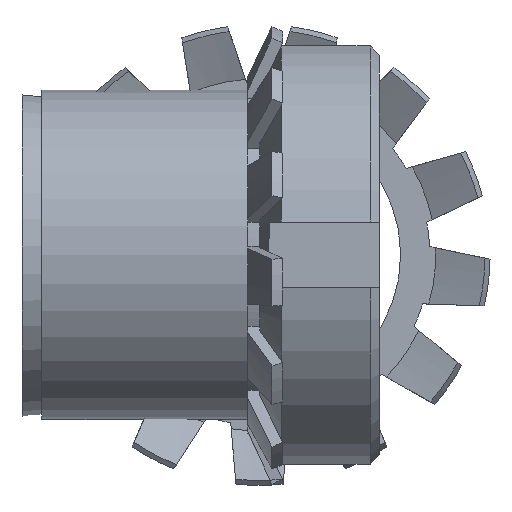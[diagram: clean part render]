
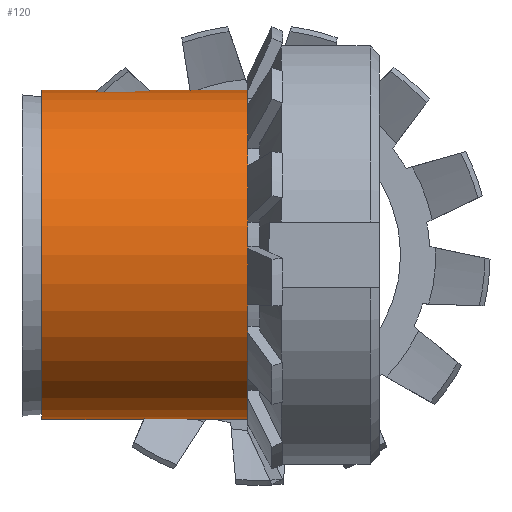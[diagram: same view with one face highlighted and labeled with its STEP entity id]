
A CAD part, left-side view. The second image highlights one B-rep face of the part: STEP entity #120.
In plain terms, the highlighted cylindrical face has radius 17.5 mm (diameter 35 mm), a full revolution.
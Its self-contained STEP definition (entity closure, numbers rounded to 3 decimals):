
#120 = ADVANCED_FACE( '', ( #241, #242 ), #243, .T. );
#241 = FACE_OUTER_BOUND( '', #371, .T. );
#242 = FACE_OUTER_BOUND( '', #372, .T. );
#243 = CYLINDRICAL_SURFACE( '', #373, 17.5 );
#371 = EDGE_LOOP( '', ( #708 ) );
#372 = EDGE_LOOP( '', ( #709 ) );
#373 = AXIS2_PLACEMENT_3D( '', #710, #711, #712 );
#708 = ORIENTED_EDGE( '', *, *, #1088, .F. );
#709 = ORIENTED_EDGE( '', *, *, #1109, .T. );
#710 = CARTESIAN_POINT( '', ( 0., -60., 0. ) );
#711 = DIRECTION( '', ( 0., 1., 0. ) );
#712 = DIRECTION( '', ( 0., 0., -1. ) );
#1088 = EDGE_CURVE( '', #1442, #1442, #1443, .T. );
#1109 = EDGE_CURVE( '', #1468, #1468, #1469, .T. );
#1442 = VERTEX_POINT( '', #2485 );
#1443 = CIRCLE( '', #2486, 17.5 );
#1468 = VERTEX_POINT( '', #2526 );
#1469 = CIRCLE( '', #2527, 17.5 );
#2485 = CARTESIAN_POINT( '', ( 0., 0., -17.5 ) );
#2486 = AXIS2_PLACEMENT_3D( '', #2898, #2899, #2900 );
#2526 = CARTESIAN_POINT( '', ( 0., 23.139, -17.5 ) );
#2527 = AXIS2_PLACEMENT_3D( '', #2913, #2914, #2915 );
#2898 = CARTESIAN_POINT( '', ( 0., 0., 0. ) );
#2899 = DIRECTION( '', ( 0., -1., 0. ) );
#2900 = DIRECTION( '', ( 0., 0., -1. ) );
#2913 = CARTESIAN_POINT( '', ( 0., 23.139, 0. ) );
#2914 = DIRECTION( '', ( 0., -1., 0. ) );
#2915 = DIRECTION( '', ( 0., 0., -1. ) );
